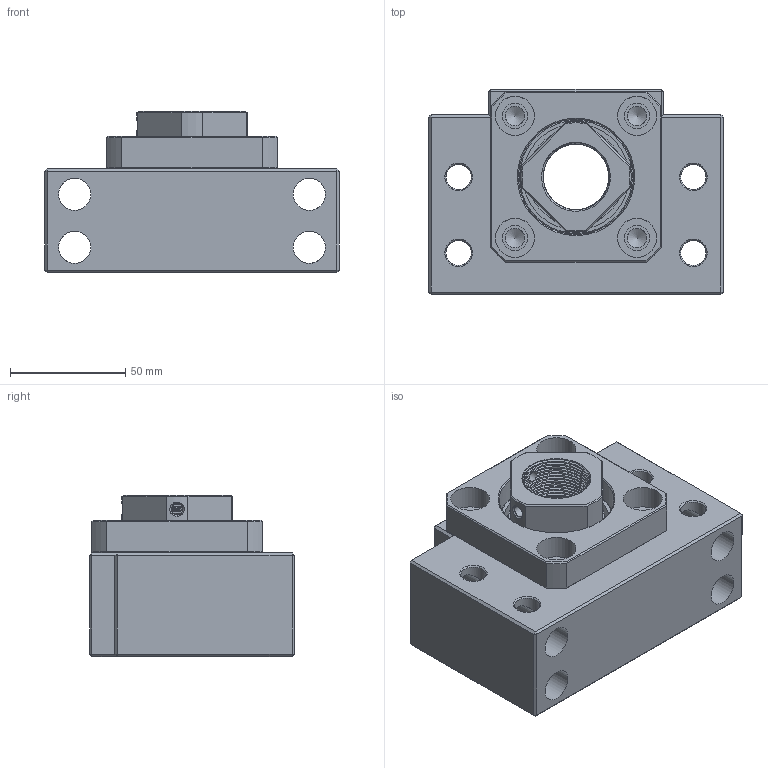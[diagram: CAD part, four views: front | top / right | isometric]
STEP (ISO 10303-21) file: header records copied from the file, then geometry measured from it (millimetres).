
FILE_DESCRIPTION(('STEP AP214'), '1');
FILE_NAME('BK30', '', ('UNSPECIFIED'), ('UNSPECIFIED'), 'ASCON STEP Converter 1.3', 'ASCON Math Kernel', '');
FILE_SCHEMA(('AUTOMOTIVE_DESIGN { 1 0 10303 214 3 1 1}'));
Length unit declared in the file: millimetre
Bounding box: 128 x 89 x 70 mm (x, y, z)
Volume: 411515.9 mm3; surface area: 130539.1 mm2
Topology: 37 solids, 37 shells, 320 faces, 785 edges, 488 vertices
Faces by surface type: plane 103, cylinder 88, cone 47, torus 40, sphere 26, bspline 16
Full cylindrical faces by diameter (mm): 5 x2, 8.5 x4, 11 x16, 14 x4, 17 x4, 20 x4, 30 x4, 36.75 x2, 37 x1, 37.1 x2, 38 x2, 40.9 x2, 42 x2, 46 x2, 50 x4, 51.3 x2, 56 x2, 62 x4
Entity records: 32252 total; most frequent: CARTESIAN_POINT 23250, ORIENTED_EDGE 1130, DIRECTION 1104, EDGE_CURVE 565, EDGE_LOOP 499, AXIS2_PLACEMENT_3D 476, VERTEX_POINT 432, COLOUR_RGB 357
